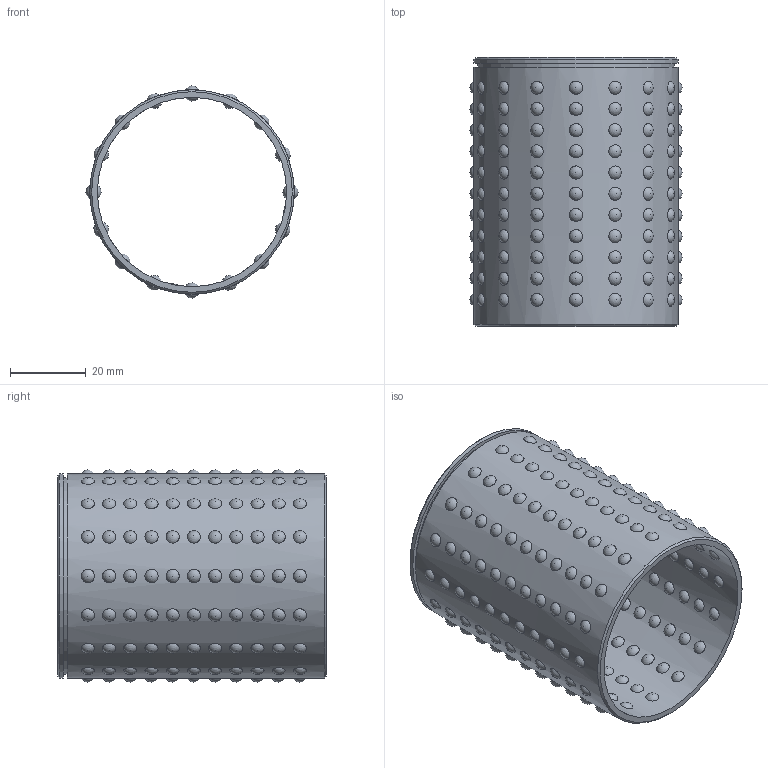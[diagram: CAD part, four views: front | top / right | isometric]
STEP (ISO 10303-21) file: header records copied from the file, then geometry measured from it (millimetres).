
FILE_DESCRIPTION( ( 'STEP AP203' ), '1' );
FILE_NAME( 'C:/Documents and Settings/EXPER/Desktop/Cuma/24 03 2009/D60/D60_48X71.step', '2003-01-02T01:36:10', ( ' ' ), ( ' ' ), 'XStep 1.0', ' ', ' ' );
FILE_SCHEMA( ( 'CONFIG_CONTROL_DESIGN' ) );
Length unit declared in the file: metre
Products named in the file (177): 1; 2; 3; 4; 5; 6; 7; 8; 9; 10; 11; 12; 13; 14; 15; 16; 17; 18; 19; 20; 21; 22; 23; 24; 25; 26; 27; 28; 29; 30; 31; 32; 33; 34; 35; 36; 37; 38; 39; 40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
Bounding box: 56 x 71 x 56 mm (x, y, z)
Volume: 24888.3 mm3; surface area: 34037.4 mm2
Topology: 177 solids, 177 shells, 362 faces, 1303 edges, 923 vertices
Faces by surface type: sphere 352, plane 4, cylinder 4, cone 2
Full cylindrical faces by diameter (mm): 50 x1, 52 x1, 54 x2
Entity records: 33253 total; most frequent: CARTESIAN_POINT 19831, DIRECTION 1098, CC_DESIGN_PERSON_AND_ORGANIZATION_ASSIGNMENT 885, EDGE_LOOP 724, ORIENTED_EDGE 724, FACE_BOUND 710, PERSON_AND_ORGANIZATION_ROLE 708, AXIS2_PLACEMENT_3D 549
